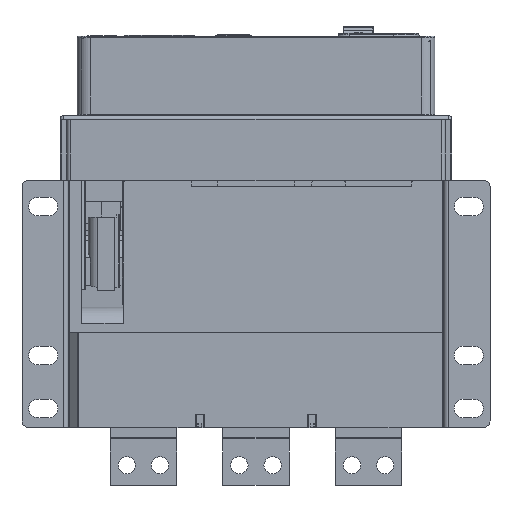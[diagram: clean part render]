
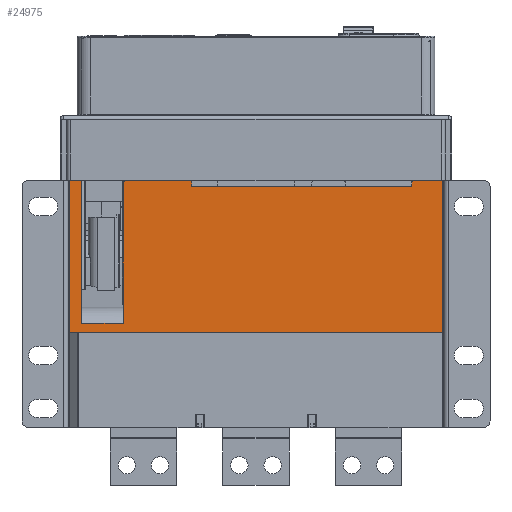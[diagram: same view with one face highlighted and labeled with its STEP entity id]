
A CAD part, front view. The second image highlights one B-rep face of the part: STEP entity #24975.
In plain terms, the highlighted planar face has unit normal (0, -1, 0).
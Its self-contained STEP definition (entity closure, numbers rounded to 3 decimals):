
#2548=DIRECTION('',(-1.,0.,0.));
#2549=VECTOR('',#2548,31.7);
#2550=CARTESIAN_POINT('',(-269.569,-639.732,
45.8));
#2551=LINE('',#2550,#2549);
#2560=DIRECTION('',(1.,0.,0.));
#2561=VECTOR('',#2560,8.7);
#2562=CARTESIAN_POINT('',(-309.969,-639.732,
153.8));
#2563=LINE('',#2562,#2561);
#2564=DIRECTION('',(0.,0.,-1.));
#2565=VECTOR('',#2564,108.);
#2566=CARTESIAN_POINT('',(-301.269,-639.732,
153.8));
#2567=LINE('',#2566,#2565);
#2568=CARTESIAN_POINT('',(-267.569,-639.732,
151.8));
#2569=DIRECTION('',(0.,1.,0.));
#2570=DIRECTION('',(-1.,0.,0.));
#2571=AXIS2_PLACEMENT_3D('',#2568,#2569,#2570);
#2573=CARTESIAN_POINT('',(-219.969,-639.732,
151.8));
#2574=DIRECTION('',(0.,1.,0.));
#2575=DIRECTION('',(0.,0.,1.));
#2576=AXIS2_PLACEMENT_3D('',#2573,#2574,#2575);
#2578=DIRECTION('',(1.,0.,0.));
#2579=VECTOR('',#2578,166.);
#2580=CARTESIAN_POINT('',(-217.969,-639.732,
148.8));
#2581=LINE('',#2580,#2579);
#2582=CARTESIAN_POINT('',(-49.969,-639.732,
151.8));
#2583=DIRECTION('',(0.,1.,0.));
#2584=DIRECTION('',(-1.,0.,0.));
#2585=AXIS2_PLACEMENT_3D('',#2582,#2583,#2584);
#2587=DIRECTION('',(-1.,0.,0.));
#2588=VECTOR('',#2587,281.);
#2589=CARTESIAN_POINT('',(-28.969,-639.732,
38.8));
#2590=LINE('',#2589,#2588);
#2591=DIRECTION('',(0.,0.,-1.));
#2592=VECTOR('',#2591,106.);
#2593=CARTESIAN_POINT('',(-269.569,-639.732,
151.8));
#2594=LINE('',#2593,#2592);
#13100=DIRECTION('',(0.,0.,-1.));
#13101=VECTOR('',#13100,115.);
#13102=CARTESIAN_POINT('',(-309.969,-639.732,
153.8));
#13103=LINE('',#13102,#13101);
#13780=DIRECTION('',(0.,0.,1.));
#13781=VECTOR('',#13780,3.);
#13782=CARTESIAN_POINT('',(-217.969,-639.732,
148.8));
#13783=LINE('',#13782,#13781);
#13792=DIRECTION('',(-1.,0.,0.));
#13793=VECTOR('',#13792,13.1);
#13794=CARTESIAN_POINT('',(-219.969,-639.732,
153.8));
#13795=LINE('',#13794,#13793);
#13804=DIRECTION('',(0.,0.,1.));
#13805=VECTOR('',#13804,1.);
#13806=CARTESIAN_POINT('',(-233.069,-639.732,
153.8));
#13807=LINE('',#13806,#13805);
#13829=DIRECTION('',(-1.,0.,0.));
#13830=VECTOR('',#13829,2.8);
#13831=CARTESIAN_POINT('',(-233.069,-639.732,
154.8));
#13832=LINE('',#13831,#13830);
#13841=DIRECTION('',(0.,0.,-1.));
#13842=VECTOR('',#13841,1.);
#13843=CARTESIAN_POINT('',(-235.869,-639.732,
154.8));
#13844=LINE('',#13843,#13842);
#13845=DIRECTION('',(-1.,0.,0.));
#13846=VECTOR('',#13845,12.4);
#13847=CARTESIAN_POINT('',(-235.869,-639.732,
153.8));
#13848=LINE('',#13847,#13846);
#13867=DIRECTION('',(0.,0.,1.));
#13868=VECTOR('',#13867,1.);
#13869=CARTESIAN_POINT('',(-248.269,-639.732,
153.8));
#13870=LINE('',#13869,#13868);
#13879=DIRECTION('',(-1.,0.,0.));
#13880=VECTOR('',#13879,9.3);
#13881=CARTESIAN_POINT('',(-248.269,-639.732,
154.8));
#13882=LINE('',#13881,#13880);
#13899=DIRECTION('',(0.,0.,-1.));
#13900=VECTOR('',#13899,1.);
#13901=CARTESIAN_POINT('',(-257.569,-639.732,
154.8));
#13902=LINE('',#13901,#13900);
#13907=DIRECTION('',(-1.,0.,0.));
#13908=VECTOR('',#13907,10.);
#13909=CARTESIAN_POINT('',(-257.569,-639.732,
153.8));
#13910=LINE('',#13909,#13908);
#14197=DIRECTION('',(0.,0.,-1.));
#14198=VECTOR('',#14197,3.);
#14199=CARTESIAN_POINT('',(-51.969,-639.732,
151.8));
#14200=LINE('',#14199,#14198);
#14226=DIRECTION('',(-1.,0.,0.));
#14227=VECTOR('',#14226,21.);
#14228=CARTESIAN_POINT('',(-28.969,-639.732,
153.8));
#14229=LINE('',#14228,#14227);
#14575=DIRECTION('',(0.,0.,1.));
#14576=VECTOR('',#14575,115.);
#14577=CARTESIAN_POINT('',(-28.969,-639.732,
38.8));
#14578=LINE('',#14577,#14576);
#18129=CARTESIAN_POINT('',(-309.969,-639.732,
38.8));
#18130=VERTEX_POINT('',#18129);
#18131=CARTESIAN_POINT('',(-28.969,-639.732,
38.8));
#18132=VERTEX_POINT('',#18131);
#19937=CARTESIAN_POINT('',(-301.269,-639.732,
153.8));
#19938=VERTEX_POINT('',#19937);
#19939=CARTESIAN_POINT('',(-309.969,-639.732,
153.8));
#19940=VERTEX_POINT('',#19939);
#19951=CARTESIAN_POINT('',(-301.269,-639.732,
45.8));
#19952=VERTEX_POINT('',#19951);
#19953=CARTESIAN_POINT('',(-269.569,-639.732,
45.8));
#19954=VERTEX_POINT('',#19953);
#19955=CARTESIAN_POINT('',(-269.569,-639.732,
151.8));
#19956=VERTEX_POINT('',#19955);
#19957=CARTESIAN_POINT('',(-267.569,-639.732,
153.8));
#19958=VERTEX_POINT('',#19957);
#19959=CARTESIAN_POINT('',(-257.569,-639.732,
153.8));
#19960=VERTEX_POINT('',#19959);
#19961=CARTESIAN_POINT('',(-257.569,-639.732,
154.8));
#19962=VERTEX_POINT('',#19961);
#19963=CARTESIAN_POINT('',(-248.269,-639.732,
154.8));
#19964=VERTEX_POINT('',#19963);
#19965=CARTESIAN_POINT('',(-248.269,-639.732,
153.8));
#19966=VERTEX_POINT('',#19965);
#19967=CARTESIAN_POINT('',(-235.869,-639.732,
153.8));
#19968=VERTEX_POINT('',#19967);
#19969=CARTESIAN_POINT('',(-235.869,-639.732,
154.8));
#19970=VERTEX_POINT('',#19969);
#19971=CARTESIAN_POINT('',(-233.069,-639.732,
154.8));
#19972=VERTEX_POINT('',#19971);
#19973=CARTESIAN_POINT('',(-233.069,-639.732,
153.8));
#19974=VERTEX_POINT('',#19973);
#19975=CARTESIAN_POINT('',(-219.969,-639.732,
153.8));
#19976=VERTEX_POINT('',#19975);
#19977=CARTESIAN_POINT('',(-217.969,-639.732,
151.8));
#19978=VERTEX_POINT('',#19977);
#19979=CARTESIAN_POINT('',(-217.969,-639.732,
148.8));
#19980=VERTEX_POINT('',#19979);
#19981=CARTESIAN_POINT('',(-51.969,-639.732,
148.8));
#19982=VERTEX_POINT('',#19981);
#19983=CARTESIAN_POINT('',(-51.969,-639.732,
151.8));
#19984=VERTEX_POINT('',#19983);
#19985=CARTESIAN_POINT('',(-49.969,-639.732,
153.8));
#19986=VERTEX_POINT('',#19985);
#19987=CARTESIAN_POINT('',(-28.969,-639.732,
153.8));
#19988=VERTEX_POINT('',#19987);
#24926=CARTESIAN_POINT('',(-311.469,-639.732,
38.3));
#24927=DIRECTION('',(0.,-1.,0.));
#24928=DIRECTION('',(1.,0.,0.));
#24929=AXIS2_PLACEMENT_3D('',#24926,#24927,#24928);
#24930=PLANE('',#24929);
#24931=ORIENTED_EDGE('',*,*,#24856,.T.);
#24932=ORIENTED_EDGE('',*,*,#24919,.T.);
#24933=ORIENTED_EDGE('',*,*,#24908,.F.);
#24935=ORIENTED_EDGE('',*,*,#24934,.F.);
#24937=ORIENTED_EDGE('',*,*,#24936,.T.);
#24939=ORIENTED_EDGE('',*,*,#24938,.F.);
#24941=ORIENTED_EDGE('',*,*,#24940,.F.);
#24943=ORIENTED_EDGE('',*,*,#24942,.F.);
#24945=ORIENTED_EDGE('',*,*,#24944,.F.);
#24947=ORIENTED_EDGE('',*,*,#24946,.F.);
#24949=ORIENTED_EDGE('',*,*,#24948,.F.);
#24951=ORIENTED_EDGE('',*,*,#24950,.F.);
#24953=ORIENTED_EDGE('',*,*,#24952,.F.);
#24955=ORIENTED_EDGE('',*,*,#24954,.F.);
#24957=ORIENTED_EDGE('',*,*,#24956,.T.);
#24959=ORIENTED_EDGE('',*,*,#24958,.F.);
#24961=ORIENTED_EDGE('',*,*,#24960,.T.);
#24963=ORIENTED_EDGE('',*,*,#24962,.F.);
#24965=ORIENTED_EDGE('',*,*,#24964,.T.);
#24967=ORIENTED_EDGE('',*,*,#24966,.F.);
#24969=ORIENTED_EDGE('',*,*,#24968,.F.);
#24970=ORIENTED_EDGE('',*,*,#24691,.T.);
#24972=ORIENTED_EDGE('',*,*,#24971,.F.);
#24973=EDGE_LOOP('',(#24931,#24932,#24933,#24935,#24937,#24939,#24941,#24943,
#24945,#24947,#24949,#24951,#24953,#24955,#24957,#24959,#24961,#24963,#24965,
#24967,#24969,#24970,#24972));
#24974=FACE_OUTER_BOUND('',#24973,.F.);
#24975=ADVANCED_FACE('',(#24974),#24930,.T.);
#2572=CIRCLE('',#2571,2.);
#2577=CIRCLE('',#2576,2.);
#2586=CIRCLE('',#2585,2.);
#24691=EDGE_CURVE('',#18132,#18130,#2590,.T.);
#24856=EDGE_CURVE('',#19940,#19938,#2563,.T.);
#24908=EDGE_CURVE('',#19954,#19952,#2551,.T.);
#24919=EDGE_CURVE('',#19938,#19952,#2567,.T.);
#24934=EDGE_CURVE('',#19956,#19954,#2594,.T.);
#24936=EDGE_CURVE('',#19956,#19958,#2572,.T.);
#24938=EDGE_CURVE('',#19960,#19958,#13910,.T.);
#24940=EDGE_CURVE('',#19962,#19960,#13902,.T.);
#24942=EDGE_CURVE('',#19964,#19962,#13882,.T.);
#24944=EDGE_CURVE('',#19966,#19964,#13870,.T.);
#24946=EDGE_CURVE('',#19968,#19966,#13848,.T.);
#24948=EDGE_CURVE('',#19970,#19968,#13844,.T.);
#24950=EDGE_CURVE('',#19972,#19970,#13832,.T.);
#24952=EDGE_CURVE('',#19974,#19972,#13807,.T.);
#24954=EDGE_CURVE('',#19976,#19974,#13795,.T.);
#24956=EDGE_CURVE('',#19976,#19978,#2577,.T.);
#24958=EDGE_CURVE('',#19980,#19978,#13783,.T.);
#24960=EDGE_CURVE('',#19980,#19982,#2581,.T.);
#24962=EDGE_CURVE('',#19984,#19982,#14200,.T.);
#24964=EDGE_CURVE('',#19984,#19986,#2586,.T.);
#24966=EDGE_CURVE('',#19988,#19986,#14229,.T.);
#24968=EDGE_CURVE('',#18132,#19988,#14578,.T.);
#24971=EDGE_CURVE('',#19940,#18130,#13103,.T.);
